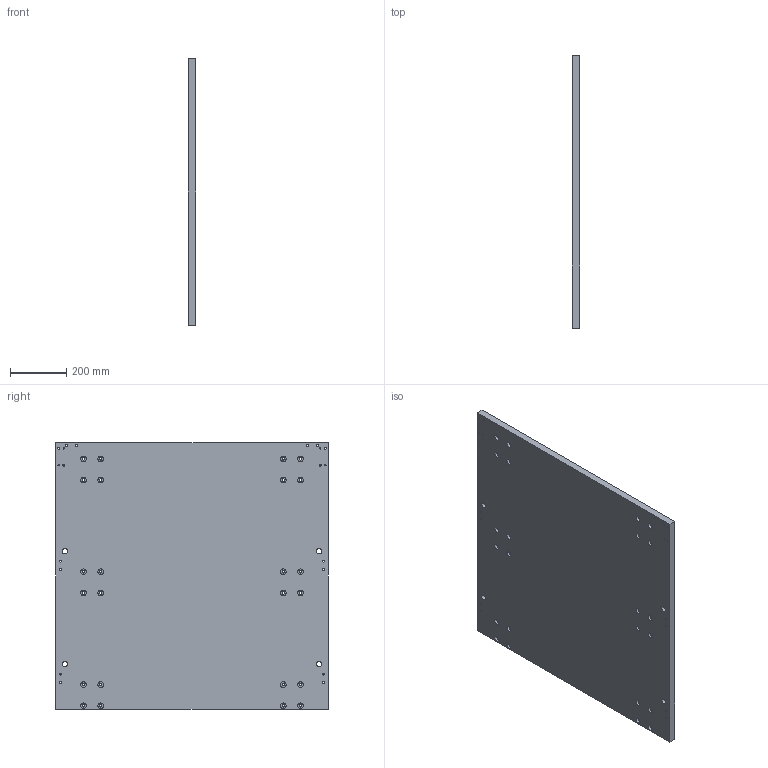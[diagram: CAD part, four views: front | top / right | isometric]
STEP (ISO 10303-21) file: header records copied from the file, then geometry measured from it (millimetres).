
FILE_DESCRIPTION(/* description */ (''),/* implementation_level */ '2;1');
FILE_NAME(/* name */ 'base_semp_v4.stp',/* time_stamp */ '2019-12-20T15:07:10+01:00',/* author */ (''),/* organization */ (''),/* preprocessor_version */ 'ST-DEVELOPER v16.7',/* originating_system */ 'SIEMENS PLM Software NX 12.0',/* authorisation */ '');
FILE_SCHEMA (('AUTOMOTIVE_DESIGN { 1 0 10303 214 3 1 1 1 }'));
Length unit declared in the file: millimetre
Products named in the file (1): bmas05B4E011loly
Bounding box: 25 x 967 x 945 mm (x, y, z)
Volume: 22703684.5 mm3; surface area: 1956927 mm2
Topology: 1 solids, 1 shells, 106 faces, 253 edges, 173 vertices
Faces by surface type: cylinder 72, plane 30, cone 4
Full cylindrical faces by diameter (mm): 5 x4, 6.8 x16, 9 x24, 19 x4, 20 x24
Entity records: 2820 total; most frequent: DIRECTION 514, CARTESIAN_POINT 419, ORIENTED_EDGE 312, FACE_BOUND 294, EDGE_LOOP 294, AXIS2_PLACEMENT_3D 251, VERTEX_POINT 156, EDGE_CURVE 156
